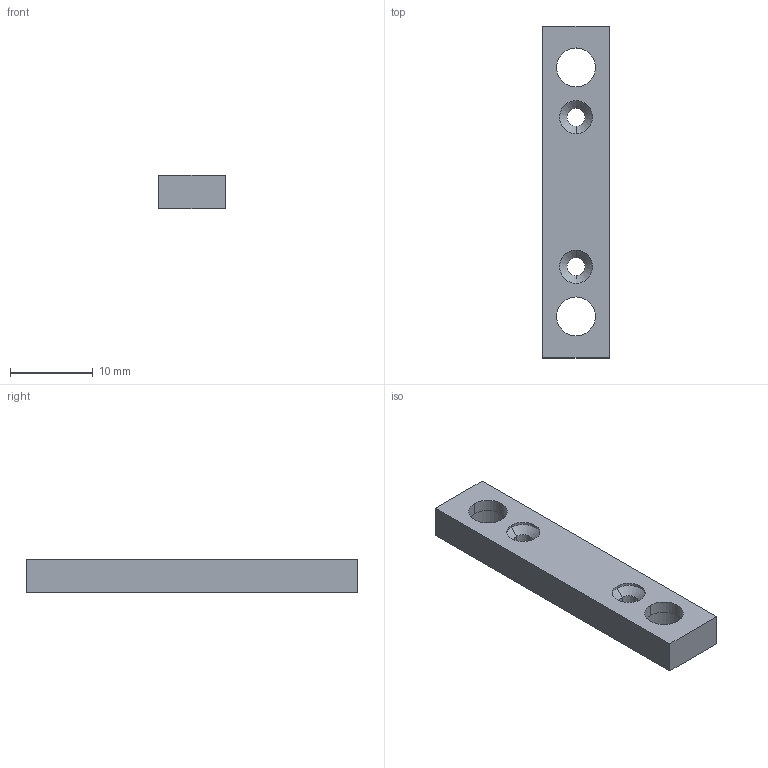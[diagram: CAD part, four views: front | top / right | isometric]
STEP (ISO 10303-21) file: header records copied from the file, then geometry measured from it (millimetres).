
FILE_DESCRIPTION(/* description */ ('VariCAD 2010-3.03 AP-214'),/* implementation_level */ '2;1');
FILE_NAME(/* name */ '0353-19-59',/* time_stamp */ '2011-01-17T17:59:42-07:00',/* author */ (''),/* organization */ (''),/* preprocessor_version */ 'ST-DEVELOPER v12',/* originating_system */ 'VariCAD 2010-3.03; kernel version (20100102)',/* authorisation */ '');
FILE_SCHEMA (('AUTOMOTIVE_DESIGN'));
Length unit declared in the file: millimetre
Products named in the file (1): Part
Bounding box: 8 x 40 x 4 mm (x, y, z)
Volume: 1057.6 mm3; surface area: 1126.7 mm2
Topology: 1 solids, 1 shells, 28 faces, 64 edges, 40 vertices
Faces by surface type: cylinder 16, plane 8, cone 4
Entity records: 839 total; most frequent: DIRECTION 156, CARTESIAN_POINT 134, ORIENTED_EDGE 128, EDGE_CURVE 64, AXIS2_PLACEMENT_3D 62, VERTEX_POINT 40, EDGE_LOOP 38, LINE 32
